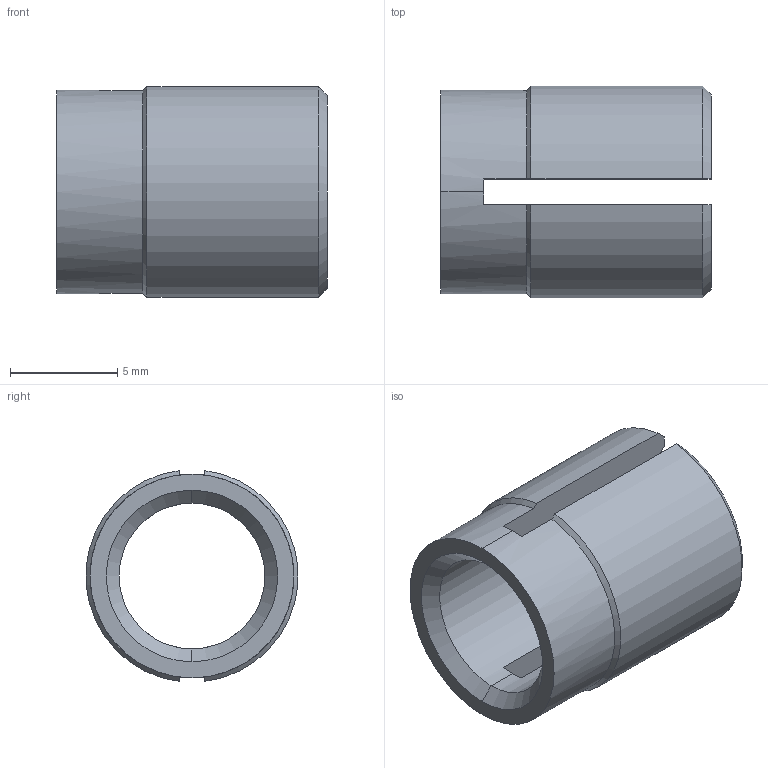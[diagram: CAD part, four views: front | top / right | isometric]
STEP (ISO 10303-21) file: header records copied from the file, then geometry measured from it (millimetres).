
FILE_DESCRIPTION (( 'STEP AP203' ), '1' );
FILE_NAME ('FSUK-EXP-M08-S.STEP', '2021-04-15T14:06:43', ( '' ), ( '' ), 'SwSTEP 2.0', 'SolidWorks 2021', '' );
FILE_SCHEMA (( 'CONFIG_CONTROL_DESIGN' ));
Length unit declared in the file: millimetre
Products named in the file (1): FSUK-EXP-M08-S
Bounding box: 12.6 x 9.86 x 9.83 mm (x, y, z)
Volume: 438.8 mm3; surface area: 725.4 mm2
Topology: 1 solids, 1 shells, 23 faces, 64 edges, 42 vertices
Faces by surface type: plane 9, cone 8, cylinder 6
Entity records: 841 total; most frequent: CARTESIAN_POINT 166, ORIENTED_EDGE 128, DIRECTION 126, EDGE_CURVE 64, AXIS2_PLACEMENT_3D 50, VERTEX_POINT 42, LINE 26, CIRCLE 26
